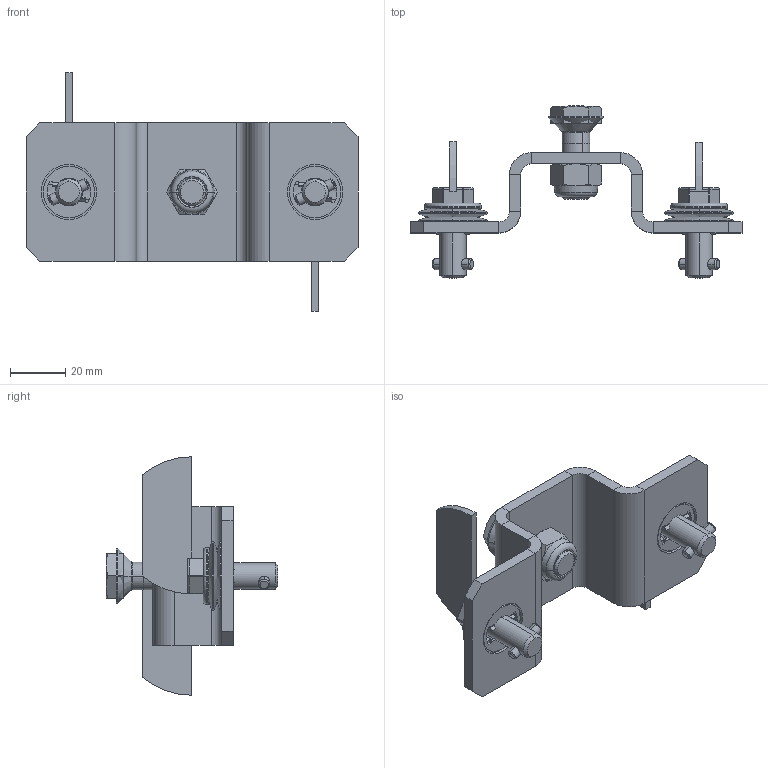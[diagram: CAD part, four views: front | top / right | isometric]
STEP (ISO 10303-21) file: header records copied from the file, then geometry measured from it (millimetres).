
FILE_DESCRIPTION((''),'2;1');
FILE_NAME('GLP-21010_ASM','2025-05-14T15:48:09',('MarcRapp'),(''),'CREO PARAMETRIC BY PTC INC, 2023073','CREO PARAMETRIC BY PTC INC, 2023073','');
FILE_SCHEMA(('AUTOMOTIVE_DESIGN { 1 0 10303 214 1 1 1 1 }'));
Length unit declared in the file: millimetre
Products named in the file (9): GLP-13310; GLP-11347; GLP-10014; GLP-10012; GLP-20356_ASM; GLP-10509; GLP-10237; GLP-10239; GLP-21010_ASM
Assembly tree (11 placements, depth 3):
  GLP-21010_ASM
    GLP-13310
    GLP-20356_ASM  x2
      GLP-11347
      GLP-10014
      GLP-10012
    GLP-10509
    GLP-10237
    GLP-10239
Bounding box: 120 x 62.15 x 86.2 mm (x, y, z)
Volume: 49533.4 mm3; surface area: 36318.8 mm2
Topology: 14 solids, 15 shells, 396 faces, 931 edges, 564 vertices
Faces by surface type: plane 154, cylinder 120, cone 62, bspline 28, torus 18, sphere 14
Entity records: 12436 total; most frequent: CARTESIAN_POINT 2033, DIRECTION 1553, ORIENTED_EDGE 1184, AXIS2_PLACEMENT_3D 598, EDGE_CURVE 592, PROPERTY_DEFINITION 436, REPRESENTATION 428, PROPERTY_DEFINITION_REPRESENTATION 428
